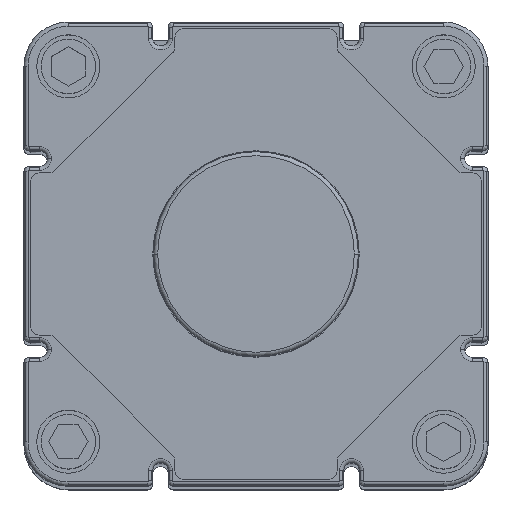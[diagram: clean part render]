
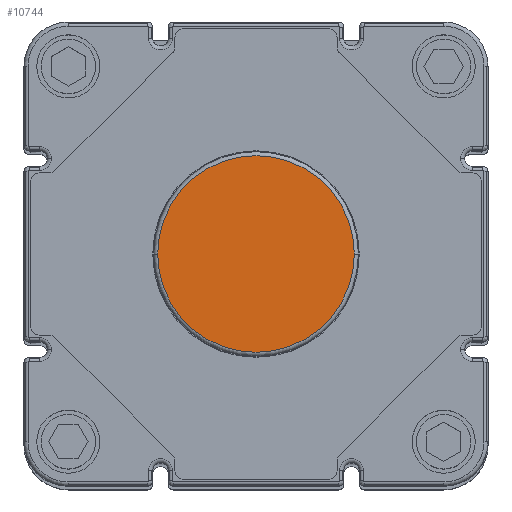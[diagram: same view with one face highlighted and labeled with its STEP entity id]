
A CAD part, top view. The second image highlights one B-rep face of the part: STEP entity #10744.
In plain terms, the highlighted planar face has unit normal (0, 0, 1).
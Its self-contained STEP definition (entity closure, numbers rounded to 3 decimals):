
#4200=CARTESIAN_POINT('',(-51.3,22.5,623.5));
#4201=VERTEX_POINT('',#4200);
#4209=CARTESIAN_POINT('',(6.3,22.5,623.5));
#4210=VERTEX_POINT('',#4209);
#4211=CARTESIAN_POINT('',(-22.5,22.5,623.5));
#4212=DIRECTION('',(0.0,0.0,-1.0));
#4213=DIRECTION('',(-1.0,0.0,0.0));
#4214=AXIS2_PLACEMENT_3D('',#4211,#4212,#4213);
#4215=CIRCLE('',#4214,28.8);
#4216=EDGE_CURVE('',#4201,#4210,#4215,.T.);
#10713=CARTESIAN_POINT('',(-22.5,22.5,623.5));
#10714=DIRECTION('',(0.0,0.0,-1.0));
#10715=DIRECTION('',(-1.0,0.0,0.0));
#10716=AXIS2_PLACEMENT_3D('',#10713,#10714,#10715);
#10717=CIRCLE('',#10716,28.8);
#10718=EDGE_CURVE('',#4210,#4201,#10717,.T.);
#10735=CARTESIAN_POINT('',(21.25,-21.25,623.5));
#10736=DIRECTION('',(0.0,0.0,1.0));
#10737=DIRECTION('',(1.0,0.0,0.0));
#10738=AXIS2_PLACEMENT_3D('',#10735,#10736,#10737);
#10739=PLANE('',#10738);
#10740=ORIENTED_EDGE('',*,*,#10718,.F.);
#10741=ORIENTED_EDGE('',*,*,#4216,.F.);
#10742=EDGE_LOOP('',(#10740,#10741));
#10743=FACE_OUTER_BOUND('',#10742,.T.);
#10744=ADVANCED_FACE('',(#10743),#10739,.T.);
